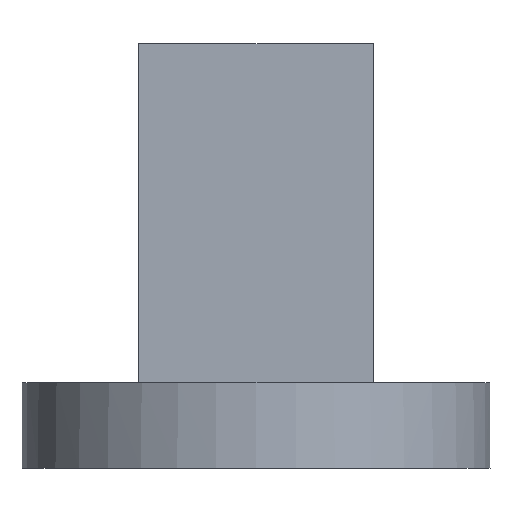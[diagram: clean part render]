
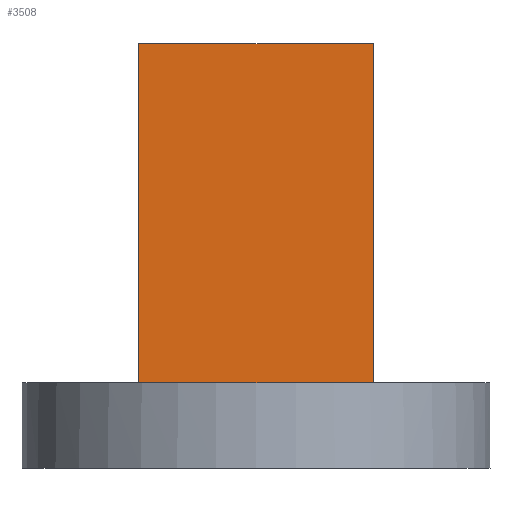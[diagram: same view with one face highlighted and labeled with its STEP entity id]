
A CAD part, front view. The second image highlights one B-rep face of the part: STEP entity #3508.
In plain terms, the highlighted planar face has unit normal (0, -1, 0).
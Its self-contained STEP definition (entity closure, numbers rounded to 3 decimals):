
#62 = PLANE('',#63);
#63 = AXIS2_PLACEMENT_3D('',#64,#65,#66);
#64 = CARTESIAN_POINT('',(0.,0.,9.5));
#65 = DIRECTION('',(0.,0.,1.));
#66 = DIRECTION('',(1.,0.,-0.));
#866 = EDGE_CURVE('',#867,#869,#871,.T.);
#867 = VERTEX_POINT('',#868);
#868 = CARTESIAN_POINT('',(-13.,-59.,9.5));
#869 = VERTEX_POINT('',#870);
#870 = CARTESIAN_POINT('',(13.,-59.,9.5));
#871 = SURFACE_CURVE('',#872,(#876,#883),.PCURVE_S1.);
#872 = LINE('',#873,#874);
#873 = CARTESIAN_POINT('',(0.,-59.,9.5));
#874 = VECTOR('',#875,1.);
#875 = DIRECTION('',(1.,0.,0.));
#876 = PCURVE('',#62,#877);
#877 = DEFINITIONAL_REPRESENTATION('',(#878),#882);
#878 = LINE('',#879,#880);
#879 = CARTESIAN_POINT('',(0.,-59.));
#880 = VECTOR('',#881,1.);
#881 = DIRECTION('',(1.,0.));
#882 = ( GEOMETRIC_REPRESENTATION_CONTEXT(2) 
PARAMETRIC_REPRESENTATION_CONTEXT() REPRESENTATION_CONTEXT('2D SPACE',''
  ) );
#883 = PCURVE('',#884,#889);
#884 = PLANE('',#885);
#885 = AXIS2_PLACEMENT_3D('',#886,#887,#888);
#886 = CARTESIAN_POINT('',(-13.,-59.,9.5));
#887 = DIRECTION('',(0.,1.,0.));
#888 = DIRECTION('',(1.,0.,0.));
#889 = DEFINITIONAL_REPRESENTATION('',(#890),#894);
#890 = LINE('',#891,#892);
#891 = CARTESIAN_POINT('',(13.,0.));
#892 = VECTOR('',#893,1.);
#893 = DIRECTION('',(1.,0.));
#894 = ( GEOMETRIC_REPRESENTATION_CONTEXT(2) 
PARAMETRIC_REPRESENTATION_CONTEXT() REPRESENTATION_CONTEXT('2D SPACE',''
  ) );
#912 = PLANE('',#913);
#913 = AXIS2_PLACEMENT_3D('',#914,#915,#916);
#914 = CARTESIAN_POINT('',(-13.,-59.,9.5));
#915 = DIRECTION('',(-1.,0.,0.));
#916 = DIRECTION('',(0.,1.,0.));
#1443 = PLANE('',#1444);
#1444 = AXIS2_PLACEMENT_3D('',#1445,#1446,#1447);
#1445 = CARTESIAN_POINT('',(13.,-59.,9.5));
#1446 = DIRECTION('',(-1.,0.,0.));
#1447 = DIRECTION('',(0.,1.,0.));
#2019 = PLANE('',#2020);
#2020 = AXIS2_PLACEMENT_3D('',#2021,#2022,#2023);
#2021 = CARTESIAN_POINT('',(0.,-56.5,47.2));
#2022 = DIRECTION('',(0.,0.,1.));
#2023 = DIRECTION('',(1.,0.,-0.));
#3508 = ADVANCED_FACE('',(#3509),#884,.F.);
#3509 = FACE_BOUND('',#3510,.F.);
#3510 = EDGE_LOOP('',(#3511,#3534,#3557,#3578));
#3511 = ORIENTED_EDGE('',*,*,#3512,.T.);
#3512 = EDGE_CURVE('',#867,#3513,#3515,.T.);
#3513 = VERTEX_POINT('',#3514);
#3514 = CARTESIAN_POINT('',(-13.,-59.,47.2));
#3515 = SURFACE_CURVE('',#3516,(#3520,#3527),.PCURVE_S1.);
#3516 = LINE('',#3517,#3518);
#3517 = CARTESIAN_POINT('',(-13.,-59.,9.5));
#3518 = VECTOR('',#3519,1.);
#3519 = DIRECTION('',(0.,0.,1.));
#3520 = PCURVE('',#884,#3521);
#3521 = DEFINITIONAL_REPRESENTATION('',(#3522),#3526);
#3522 = LINE('',#3523,#3524);
#3523 = CARTESIAN_POINT('',(0.,0.));
#3524 = VECTOR('',#3525,1.);
#3525 = DIRECTION('',(0.,-1.));
#3526 = ( GEOMETRIC_REPRESENTATION_CONTEXT(2) 
PARAMETRIC_REPRESENTATION_CONTEXT() REPRESENTATION_CONTEXT('2D SPACE',''
  ) );
#3527 = PCURVE('',#912,#3528);
#3528 = DEFINITIONAL_REPRESENTATION('',(#3529),#3533);
#3529 = LINE('',#3530,#3531);
#3530 = CARTESIAN_POINT('',(0.,0.));
#3531 = VECTOR('',#3532,1.);
#3532 = DIRECTION('',(0.,-1.));
#3533 = ( GEOMETRIC_REPRESENTATION_CONTEXT(2) 
PARAMETRIC_REPRESENTATION_CONTEXT() REPRESENTATION_CONTEXT('2D SPACE',''
  ) );
#3534 = ORIENTED_EDGE('',*,*,#3535,.T.);
#3535 = EDGE_CURVE('',#3513,#3536,#3538,.T.);
#3536 = VERTEX_POINT('',#3537);
#3537 = CARTESIAN_POINT('',(13.,-59.,47.2));
#3538 = SURFACE_CURVE('',#3539,(#3543,#3550),.PCURVE_S1.);
#3539 = LINE('',#3540,#3541);
#3540 = CARTESIAN_POINT('',(0.,-59.,47.2));
#3541 = VECTOR('',#3542,1.);
#3542 = DIRECTION('',(1.,0.,0.));
#3543 = PCURVE('',#884,#3544);
#3544 = DEFINITIONAL_REPRESENTATION('',(#3545),#3549);
#3545 = LINE('',#3546,#3547);
#3546 = CARTESIAN_POINT('',(13.,-37.7));
#3547 = VECTOR('',#3548,1.);
#3548 = DIRECTION('',(1.,0.));
#3549 = ( GEOMETRIC_REPRESENTATION_CONTEXT(2) 
PARAMETRIC_REPRESENTATION_CONTEXT() REPRESENTATION_CONTEXT('2D SPACE',''
  ) );
#3550 = PCURVE('',#2019,#3551);
#3551 = DEFINITIONAL_REPRESENTATION('',(#3552),#3556);
#3552 = LINE('',#3553,#3554);
#3553 = CARTESIAN_POINT('',(0.,-2.5));
#3554 = VECTOR('',#3555,1.);
#3555 = DIRECTION('',(1.,0.));
#3556 = ( GEOMETRIC_REPRESENTATION_CONTEXT(2) 
PARAMETRIC_REPRESENTATION_CONTEXT() REPRESENTATION_CONTEXT('2D SPACE',''
  ) );
#3557 = ORIENTED_EDGE('',*,*,#3558,.F.);
#3558 = EDGE_CURVE('',#869,#3536,#3559,.T.);
#3559 = SURFACE_CURVE('',#3560,(#3564,#3571),.PCURVE_S1.);
#3560 = LINE('',#3561,#3562);
#3561 = CARTESIAN_POINT('',(13.,-59.,9.5));
#3562 = VECTOR('',#3563,1.);
#3563 = DIRECTION('',(0.,0.,1.));
#3564 = PCURVE('',#884,#3565);
#3565 = DEFINITIONAL_REPRESENTATION('',(#3566),#3570);
#3566 = LINE('',#3567,#3568);
#3567 = CARTESIAN_POINT('',(26.,0.));
#3568 = VECTOR('',#3569,1.);
#3569 = DIRECTION('',(0.,-1.));
#3570 = ( GEOMETRIC_REPRESENTATION_CONTEXT(2) 
PARAMETRIC_REPRESENTATION_CONTEXT() REPRESENTATION_CONTEXT('2D SPACE',''
  ) );
#3571 = PCURVE('',#1443,#3572);
#3572 = DEFINITIONAL_REPRESENTATION('',(#3573),#3577);
#3573 = LINE('',#3574,#3575);
#3574 = CARTESIAN_POINT('',(0.,0.));
#3575 = VECTOR('',#3576,1.);
#3576 = DIRECTION('',(0.,-1.));
#3577 = ( GEOMETRIC_REPRESENTATION_CONTEXT(2) 
PARAMETRIC_REPRESENTATION_CONTEXT() REPRESENTATION_CONTEXT('2D SPACE',''
  ) );
#3578 = ORIENTED_EDGE('',*,*,#866,.F.);
